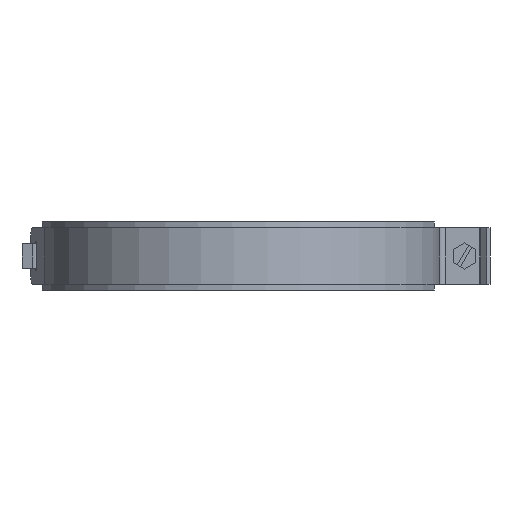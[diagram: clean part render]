
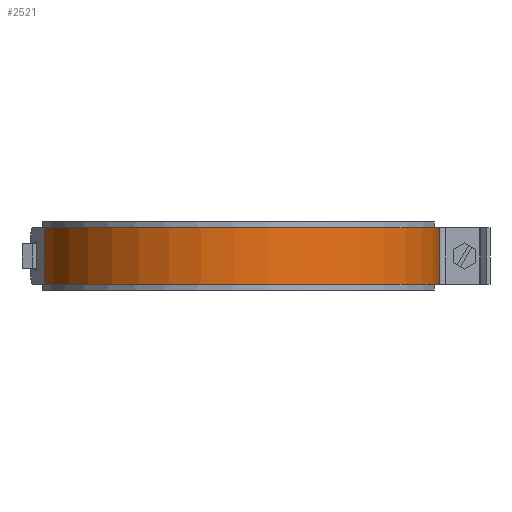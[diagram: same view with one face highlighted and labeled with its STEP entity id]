
A CAD part, front view. The second image highlights one B-rep face of the part: STEP entity #2521.
In plain terms, the highlighted cylindrical face has radius 88 mm (diameter 176 mm), a partial arc.
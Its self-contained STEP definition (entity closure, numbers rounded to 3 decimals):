
#88=CYLINDRICAL_SURFACE($,#2745,88.);
#186=FACE_OUTER_BOUND($,#322,.T.);
#322=EDGE_LOOP($,(#1978,#1979,#1980,#1981,#1982,#1983));
#418=CIRCLE($,#2646,88.);
#420=CIRCLE($,#2649,88.);
#439=CIRCLE($,#2690,88.);
#462=CIRCLE($,#2746,88.);
#638=LINE($,#4041,#876);
#648=LINE($,#4071,#886);
#876=VECTOR($,#3305,25.);
#886=VECTOR($,#3341,25.);
#1031=VERTEX_POINT($,#3758);
#1032=VERTEX_POINT($,#3760);
#1035=VERTEX_POINT($,#3768);
#1036=VERTEX_POINT($,#3769);
#1077=VERTEX_POINT($,#3897);
#1135=VERTEX_POINT($,#4070);
#1292=EDGE_CURVE($,#1031,#1032,#418,.T.);
#1296=EDGE_CURVE($,#1035,#1036,#420,.T.);
#1361=EDGE_CURVE($,#1032,#1077,#439,.T.);
#1428=EDGE_CURVE($,#1031,#1036,#638,.T.);
#1443=EDGE_CURVE($,#1077,#1135,#648,.T.);
#1444=EDGE_CURVE($,#1135,#1035,#462,.T.);
#1978=ORIENTED_EDGE($,*,*,#1443,.F.);
#1979=ORIENTED_EDGE($,*,*,#1361,.F.);
#1980=ORIENTED_EDGE($,*,*,#1292,.F.);
#1981=ORIENTED_EDGE($,*,*,#1428,.T.);
#1982=ORIENTED_EDGE($,*,*,#1296,.F.);
#1983=ORIENTED_EDGE($,*,*,#1444,.F.);
#2521=ADVANCED_FACE($,(#186),#88,.T.);
#2646=AXIS2_PLACEMENT_3D($,#3761,#3034,#3035);
#2649=AXIS2_PLACEMENT_3D($,#3770,#3042,#3043);
#2690=AXIS2_PLACEMENT_3D($,#3898,#3170,#3171);
#2745=AXIS2_PLACEMENT_3D($,#4069,#3339,#3340);
#2746=AXIS2_PLACEMENT_3D($,#4072,#3342,#3343);
#3034=DIRECTION('center_axis',(0.,0.,1.));
#3035=DIRECTION('ref_axis',(0.98,0.199,0.));
#3042=DIRECTION('center_axis',(0.,0.,-1.));
#3043=DIRECTION('ref_axis',(0.98,0.199,0.));
#3170=DIRECTION('center_axis',(0.,0.,1.));
#3171=DIRECTION('ref_axis',(0.98,0.199,0.));
#3305=DIRECTION($,(0.,0.,-1.));
#3339=DIRECTION('center_axis',(0.,0.,1.));
#3340=DIRECTION('ref_axis',(0.98,0.199,0.));
#3341=DIRECTION($,(0.,0.,-1.));
#3342=DIRECTION('center_axis',(0.,0.,-1.));
#3343=DIRECTION('ref_axis',(0.98,0.199,0.));
#3758=CARTESIAN_POINT('',(-86.233,-17.544,12.5));
#3760=CARTESIAN_POINT('',(85.001,-22.776,12.5));
#3761=CARTESIAN_POINT('Origin',(0.,0.,12.5));
#3768=CARTESIAN_POINT('',(85.001,-22.776,-12.5));
#3769=CARTESIAN_POINT('',(-86.233,-17.544,-12.5));
#3770=CARTESIAN_POINT('Origin',(0.,0.,-12.5));
#3897=CARTESIAN_POINT('',(87.773,-6.32,12.5));
#3898=CARTESIAN_POINT('Origin',(0.,0.,12.5));
#4041=CARTESIAN_POINT($,(-86.233,-17.544,0.));
#4069=CARTESIAN_POINT('Origin',(0.,0.,0.));
#4070=CARTESIAN_POINT('',(87.773,-6.32,-12.5));
#4071=CARTESIAN_POINT($,(87.773,-6.32,0.));
#4072=CARTESIAN_POINT('Origin',(0.,0.,-12.5));
